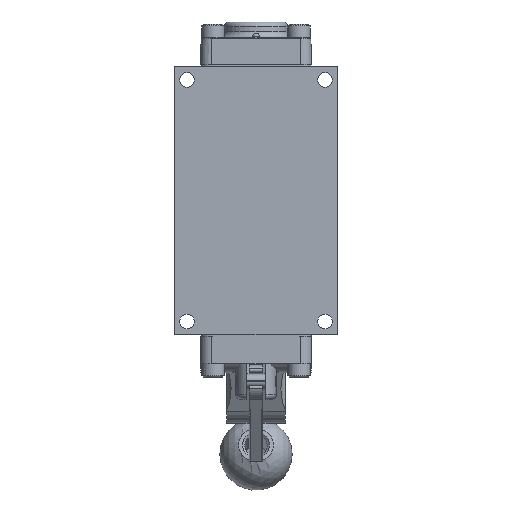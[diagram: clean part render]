
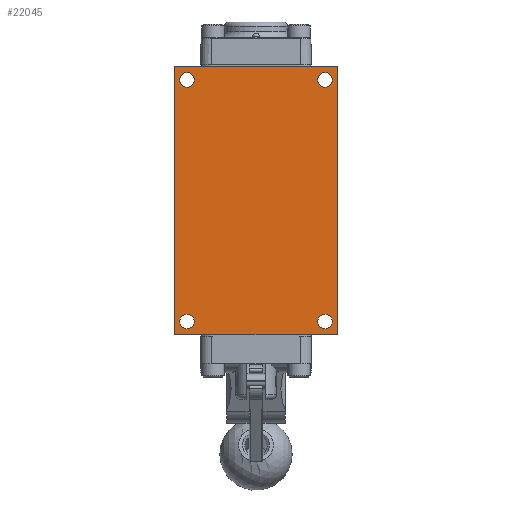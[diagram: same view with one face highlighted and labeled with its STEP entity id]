
A CAD part, front view. The second image highlights one B-rep face of the part: STEP entity #22045.
In plain terms, the highlighted planar face has unit normal (0, -1, 0).
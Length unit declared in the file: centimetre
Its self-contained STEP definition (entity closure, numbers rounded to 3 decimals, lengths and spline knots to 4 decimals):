
#576=FACE_BOUND('',#2931,.T.);
#577=FACE_BOUND('',#2932,.T.);
#578=FACE_BOUND('',#2933,.T.);
#579=FACE_BOUND('',#2934,.T.);
#900=PLANE('',#23487);
#1623=FACE_OUTER_BOUND('',#2930,.T.);
#2930=EDGE_LOOP('',(#15948,#15949,#15950,#15951));
#2931=EDGE_LOOP('',(#15952));
#2932=EDGE_LOOP('',(#15953));
#2933=EDGE_LOOP('',(#15954));
#2934=EDGE_LOOP('',(#15955));
#4564=LINE('',#31715,#6148);
#4574=LINE('',#31754,#6158);
#4792=LINE('',#32717,#6376);
#5034=LINE('',#34145,#6618);
#6148=VECTOR('',#25525,1.);
#6158=VECTOR('',#25557,1.);
#6376=VECTOR('',#25953,1.);
#6618=VECTOR('',#26349,1.);
#7811=CIRCLE('',#23445,0.2578);
#7812=CIRCLE('',#23447,0.2578);
#7813=CIRCLE('',#23449,0.2578);
#7814=CIRCLE('',#23451,0.2578);
#8797=VERTEX_POINT('',#31712);
#8798=VERTEX_POINT('',#31714);
#8815=VERTEX_POINT('',#31751);
#8816=VERTEX_POINT('',#31753);
#9364=VERTEX_POINT('',#34983);
#9365=VERTEX_POINT('',#34987);
#9366=VERTEX_POINT('',#34991);
#9367=VERTEX_POINT('',#34995);
#10928=EDGE_CURVE('',#8797,#8798,#4564,.T.);
#10946=EDGE_CURVE('',#8815,#8816,#4574,.T.);
#11231=EDGE_CURVE('',#8816,#8797,#4792,.T.);
#11569=EDGE_CURVE('',#8798,#8815,#5034,.T.);
#11758=EDGE_CURVE('',#9364,#9364,#7811,.T.);
#11760=EDGE_CURVE('',#9365,#9365,#7812,.T.);
#11762=EDGE_CURVE('',#9366,#9366,#7813,.T.);
#11764=EDGE_CURVE('',#9367,#9367,#7814,.T.);
#15948=ORIENTED_EDGE('',*,*,#11231,.F.);
#15949=ORIENTED_EDGE('',*,*,#10946,.F.);
#15950=ORIENTED_EDGE('',*,*,#11569,.F.);
#15951=ORIENTED_EDGE('',*,*,#10928,.F.);
#15952=ORIENTED_EDGE('',*,*,#11758,.T.);
#15953=ORIENTED_EDGE('',*,*,#11760,.T.);
#15954=ORIENTED_EDGE('',*,*,#11762,.T.);
#15955=ORIENTED_EDGE('',*,*,#11764,.T.);
#22045=ADVANCED_FACE('',(#1623,#576,#577,#578,#579),#900,.F.);
#23445=AXIS2_PLACEMENT_3D('',#34985,#26747,#26748);
#23447=AXIS2_PLACEMENT_3D('',#34989,#26752,#26753);
#23449=AXIS2_PLACEMENT_3D('',#34993,#26757,#26758);
#23451=AXIS2_PLACEMENT_3D('',#34997,#26762,#26763);
#23487=AXIS2_PLACEMENT_3D('',#35068,#26849,#26850);
#25525=DIRECTION('',(1.,0.,0.));
#25557=DIRECTION('',(-1.,0.,0.));
#25953=DIRECTION('',(0.,0.,1.));
#26349=DIRECTION('',(0.,0.,-1.));
#26747=DIRECTION('center_axis',(0.,1.,0.));
#26748=DIRECTION('ref_axis',(-1.,0.,0.));
#26752=DIRECTION('center_axis',(0.,1.,0.));
#26753=DIRECTION('ref_axis',(-1.,0.,0.));
#26757=DIRECTION('center_axis',(0.,1.,0.));
#26758=DIRECTION('ref_axis',(-1.,0.,0.));
#26762=DIRECTION('center_axis',(0.,1.,0.));
#26763=DIRECTION('ref_axis',(-1.,0.,0.));
#26849=DIRECTION('center_axis',(0.,1.,0.));
#26850=DIRECTION('ref_axis',(0.,0.,1.));
#31712=CARTESIAN_POINT('',(-2.8575,-1.6358,4.7104));
#31714=CARTESIAN_POINT('',(2.8575,-1.6358,4.7104));
#31715=CARTESIAN_POINT('',(-2.8575,-1.6358,4.7104));
#31751=CARTESIAN_POINT('',(2.8575,-1.6358,-4.7104));
#31753=CARTESIAN_POINT('',(-2.8575,-1.6358,-4.7104));
#31754=CARTESIAN_POINT('',(2.8575,-1.6358,-4.7104));
#32717=CARTESIAN_POINT('',(-2.8575,-1.6358,-4.7104));
#34145=CARTESIAN_POINT('',(2.8575,-1.6358,4.7104));
#34983=CARTESIAN_POINT('',(-2.1628,-1.6358,-4.2469));
#34985=CARTESIAN_POINT('Origin',(-2.4206,-1.6358,-4.2469));
#34987=CARTESIAN_POINT('',(-2.1628,-1.6358,4.2469));
#34989=CARTESIAN_POINT('Origin',(-2.4206,-1.6358,4.2469));
#34991=CARTESIAN_POINT('',(2.6784,-1.6358,-4.2469));
#34993=CARTESIAN_POINT('Origin',(2.4206,-1.6358,-4.2469));
#34995=CARTESIAN_POINT('',(2.6784,-1.6358,4.2469));
#34997=CARTESIAN_POINT('Origin',(2.4206,-1.6358,4.2469));
#35068=CARTESIAN_POINT('Origin',(0.,-1.6358,0.));
